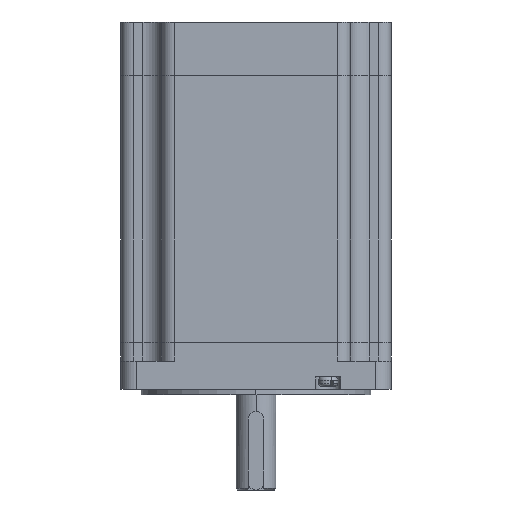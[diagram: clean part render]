
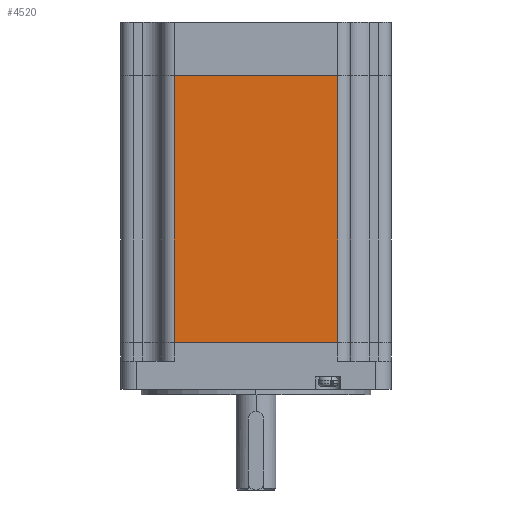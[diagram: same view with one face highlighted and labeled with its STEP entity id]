
A CAD part, left-side view. The second image highlights one B-rep face of the part: STEP entity #4520.
In plain terms, the highlighted planar face has unit normal (-1, 0, 0).
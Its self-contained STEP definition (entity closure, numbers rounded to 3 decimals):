
#30 = DIRECTION ( 'NONE',  ( 0., 0., -1. ) ) ;
#38 = CARTESIAN_POINT ( 'NONE',  ( -43., -26., 85. ) ) ;
#39 = LINE ( 'NONE', #38, #52 ) ;
#49 = CARTESIAN_POINT ( 'NONE',  ( -43., -26., 0. ) ) ;
#52 = VECTOR ( 'NONE', #117, 1000. ) ;
#71 = FACE_OUTER_BOUND ( 'NONE', #4500, .T. ) ;
#117 = DIRECTION ( 'NONE',  ( 0., 0., -1. ) ) ;
#118 = CARTESIAN_POINT ( 'NONE',  ( -43., 26., 0. ) ) ;
#152 = LINE ( 'NONE', #160, #154 ) ;
#154 = VECTOR ( 'NONE', #159, 1000. ) ;
#156 = DIRECTION ( 'NONE',  ( 0., -1., 0. ) ) ;
#159 = DIRECTION ( 'NONE',  ( 0., -1., 0. ) ) ;
#160 = CARTESIAN_POINT ( 'NONE',  ( -43., 26., 85. ) ) ;
#162 = VECTOR ( 'NONE', #30, 1000. ) ;
#163 = CARTESIAN_POINT ( 'NONE',  ( -43., 26., 85. ) ) ;
#164 = LINE ( 'NONE', #163, #162 ) ;
#165 = CARTESIAN_POINT ( 'NONE',  ( -43., 26., 0. ) ) ;
#167 = CARTESIAN_POINT ( 'NONE',  ( -43., -26., 85. ) ) ;
#180 = VECTOR ( 'NONE', #156, 1000. ) ;
#183 = LINE ( 'NONE', #165, #180 ) ;
#199 = AXIS2_PLACEMENT_3D ( 'NONE', #200, #202, #204 ) ;
#200 = CARTESIAN_POINT ( 'NONE',  ( -43., 26., 85. ) ) ;
#201 = CARTESIAN_POINT ( 'NONE',  ( -43., 26., 85. ) ) ;
#202 = DIRECTION ( 'NONE',  ( 1., 0., 0. ) ) ;
#203 = PLANE ( 'NONE',  #199 ) ;
#204 = DIRECTION ( 'NONE',  ( 0., 0., -1. ) ) ;
#4487 = EDGE_CURVE ( 'NONE', #4515, #4513, #183, .T. ) ;
#4490 = VERTEX_POINT ( 'NONE', #167 ) ;
#4495 = ORIENTED_EDGE ( 'NONE', *, *, #4487, .T. ) ;
#4497 = EDGE_CURVE ( 'NONE', #4524, #4490, #152, .T. ) ;
#4500 = EDGE_LOOP ( 'NONE', ( #4495, #4517, #4514, #4503 ) ) ;
#4503 = ORIENTED_EDGE ( 'NONE', *, *, #4506, .T. ) ;
#4506 = EDGE_CURVE ( 'NONE', #4524, #4515, #164, .T. ) ;
#4513 = VERTEX_POINT ( 'NONE', #49 ) ;
#4514 = ORIENTED_EDGE ( 'NONE', *, *, #4497, .F. ) ;
#4515 = VERTEX_POINT ( 'NONE', #118 ) ;
#4516 = EDGE_CURVE ( 'NONE', #4490, #4513, #39, .T. ) ;
#4517 = ORIENTED_EDGE ( 'NONE', *, *, #4516, .F. ) ;
#4520 = ADVANCED_FACE ( 'NONE', ( #71 ), #203, .F. ) ;
#4524 = VERTEX_POINT ( 'NONE', #201 ) ;
